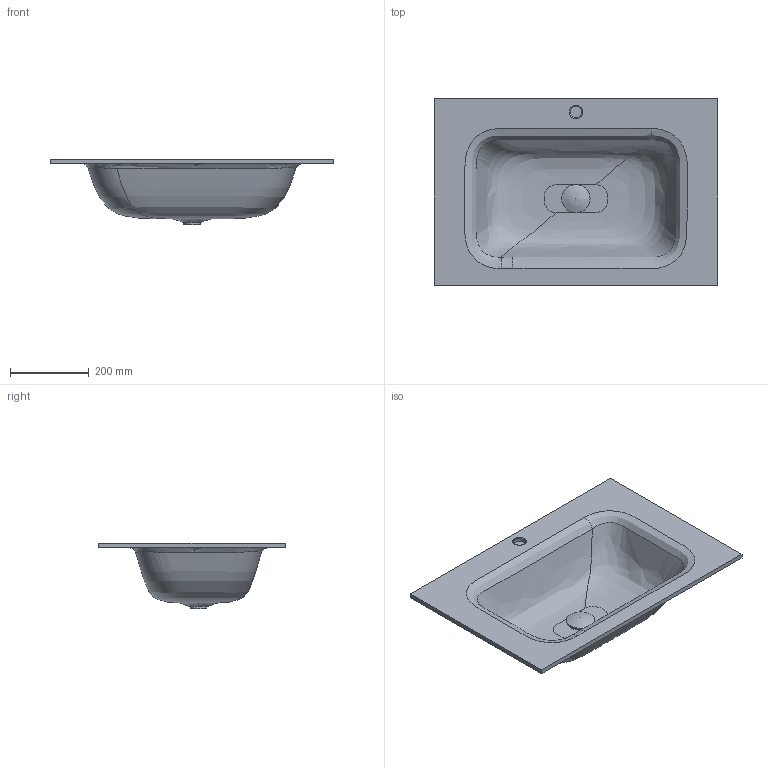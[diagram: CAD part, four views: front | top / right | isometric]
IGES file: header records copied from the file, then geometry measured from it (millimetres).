
Start section: Data from Parasolid IGES Translator 19.0.9, Copyright(c) 2006 Siemens PL M Software. All Rights Reserved.
Global section: file name: noorth-top-H 1,2 D 47,3 W 72_4781.igs; native system: By Siemens PLM Incorporated; preprocessor: XPlus GENERIC/IGES 19.0.9; author: Noname; organization: Noname; date: 20200603.103557; units: metre
Bounding box: 720 x 473 x 166.92 mm (x, y, z)
Volume: 4928005.1 mm3; surface area: 953518.6 mm2
Topology: 4 solids, 4 shells, 68 faces, 203 edges, 145 vertices
Faces by surface type: plane 22, bspline 20, revolution 13, cylinder 9, extrusion 3, cone 1
Full cylindrical faces by diameter (mm): 0.043 x1, 19.989 x1, 30 x1, 62.239 x1, 71.973 x1
